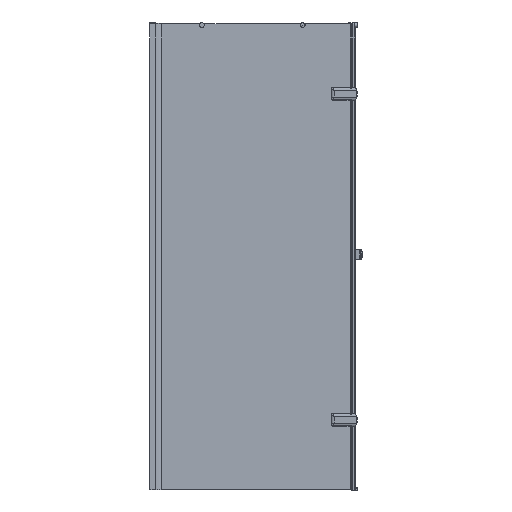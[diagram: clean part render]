
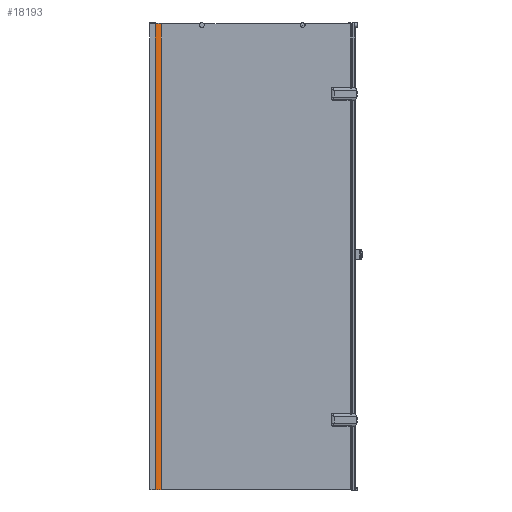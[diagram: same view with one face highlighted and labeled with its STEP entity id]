
A CAD part, front view. The second image highlights one B-rep face of the part: STEP entity #18193.
In plain terms, the highlighted cylindrical face has radius 92 mm (diameter 184 mm), a partial arc.
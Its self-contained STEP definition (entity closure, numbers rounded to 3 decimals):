
#2140=LINE($,#32643,#3860);
#2141=LINE($,#32645,#3861);
#3860=VECTOR($,#23540,2000.);
#3861=VECTOR($,#23543,2000.);
#4564=CYLINDRICAL_SURFACE($,#19644,92.);
#5284=FACE_OUTER_BOUND($,#6324,.T.);
#6324=EDGE_LOOP($,(#14901,#14902,#14903,#14904));
#7185=CIRCLE($,#19467,92.);
#7249=CIRCLE($,#19638,92.);
#8387=VERTEX_POINT($,#31897);
#8388=VERTEX_POINT($,#31899);
#8596=VERTEX_POINT($,#32607);
#8597=VERTEX_POINT($,#32609);
#10491=EDGE_CURVE($,#8388,#8387,#7185,.T.);
#10809=EDGE_CURVE($,#8596,#8597,#7249,.T.);
#10828=EDGE_CURVE($,#8387,#8597,#2140,.T.);
#10829=EDGE_CURVE($,#8388,#8596,#2141,.T.);
#14901=ORIENTED_EDGE($,*,*,#10491,.T.);
#14902=ORIENTED_EDGE($,*,*,#10828,.T.);
#14903=ORIENTED_EDGE($,*,*,#10809,.F.);
#14904=ORIENTED_EDGE($,*,*,#10829,.F.);
#18193=ADVANCED_FACE($,(#5284),#4564,.T.);
#19467=AXIS2_PLACEMENT_3D($,#31900,#22927,#22928);
#19638=AXIS2_PLACEMENT_3D($,#32610,#23511,#23512);
#19644=AXIS2_PLACEMENT_3D($,#32644,#23541,#23542);
#22927=DIRECTION('center_axis',(0.,0.,
-1.));
#22928=DIRECTION('ref_axis',(0.275,-0.961,0.));
#23511=DIRECTION('center_axis',(0.,0.,
-1.));
#23512=DIRECTION('ref_axis',(0.275,-0.961,0.));
#23540=DIRECTION($,(0.,0.,-1.));
#23541=DIRECTION('center_axis',(0.,0.,
-1.));
#23542=DIRECTION('ref_axis',(0.275,-0.961,0.));
#23543=DIRECTION($,(0.,0.,-1.));
#31897=CARTESIAN_POINT('',(389.078,-47.844,1485.944));
#31899=CARTESIAN_POINT('',(414.395,-44.292,1485.944));
#31900=CARTESIAN_POINT('Origin',(389.078,44.156,1485.944));
#32607=CARTESIAN_POINT('',(414.395,-44.292,-514.056));
#32609=CARTESIAN_POINT('',(389.078,-47.844,-514.056));
#32610=CARTESIAN_POINT('Origin',(389.078,44.156,-514.056));
#32643=CARTESIAN_POINT($,(389.078,-47.844,1485.944));
#32644=CARTESIAN_POINT('Origin',(389.078,44.156,1485.944));
#32645=CARTESIAN_POINT($,(414.395,-44.292,1485.944));
